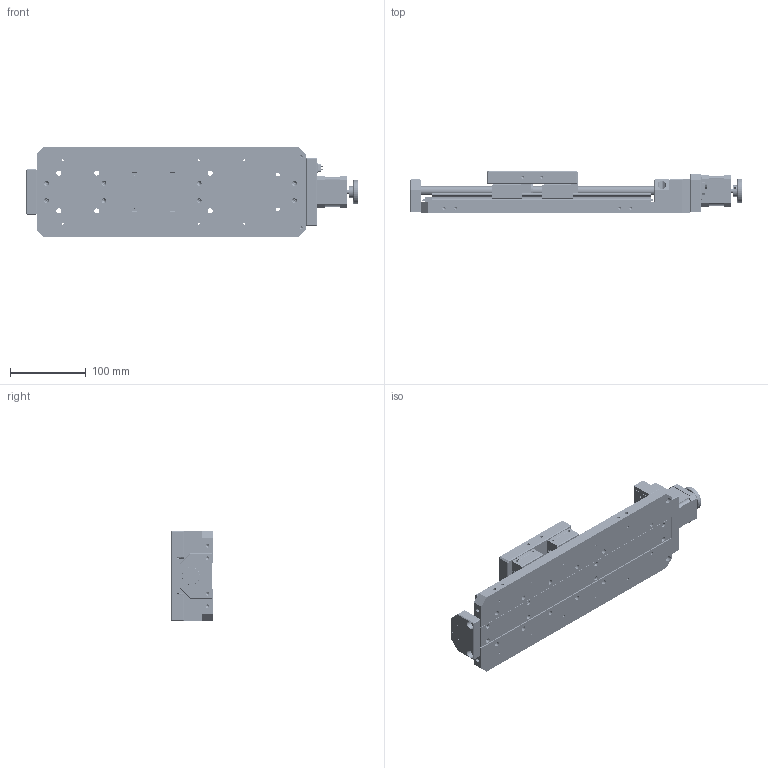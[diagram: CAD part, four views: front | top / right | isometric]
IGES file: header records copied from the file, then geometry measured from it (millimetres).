
Start section: SolidWorks IGES file using analytic representation for surfaces
Global section: file name: C:\Users\dubin\Desktop\9.18\PT-GD140G(150)\PT-GD140G(150).IGS; native system: SolidWorks 2017; preprocessor: SolidWorks 2017; author: PDV; date: 220918.111452; units: millimetre
Bounding box: 439 x 55 x 120 mm (x, y, z)
Surface area: 354381.1 mm2 (no closed solid volume)
Topology: 0 solids, 0 shells, 2226 faces, 32489 edges, 32228 vertices
Faces by surface type: bspline 1164, revolution 1062
